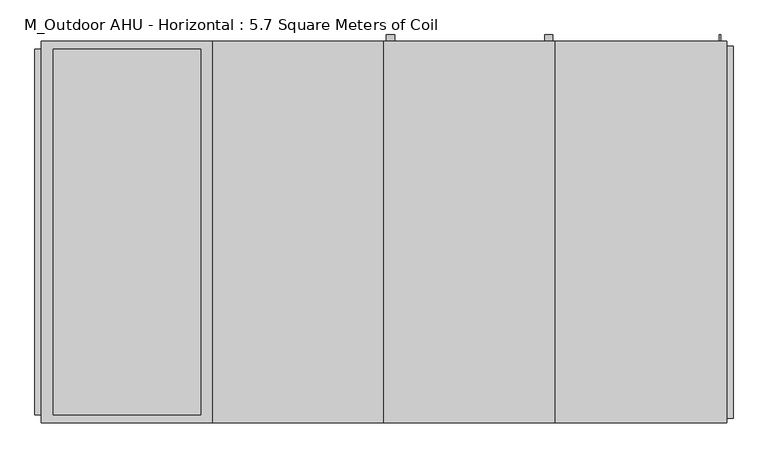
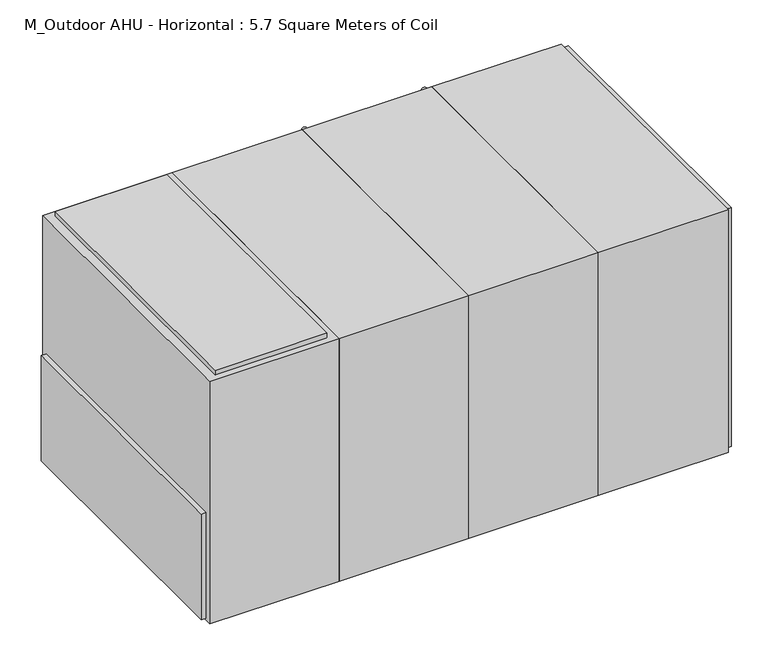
"""IFC4 building model written with IfcOpenShell, lengths in millimetres: proxy geometry, M_Outdoor AHU - Horizontal : 5.7 Square Meters of Coil."""

from ifc_helpers import new_model, si_unit, point, frame, frame_2d, origin, origin_with_axes, place, context, project, spatial, polyline, circle_curve, trimmed, segment, composite_curve, outline, extrude, source, transform, mapped, element, save


def m_outdoor_ahu_horizontal_5_7_square_meters_of_coil_4655b0e3(model_context):
    return source(origin(), model_context, "Body", "SweptSolid", [
        extrude(outline(composite_curve([segment(trimmed(circle_curve(frame_2d((50.8, 3949.7)), 15.0), [point((50.8, 3934.7))], [point((50.8, 3964.7))], False, "CARTESIAN"), True, "CONTINUOUS"), segment(trimmed(circle_curve(frame_2d((50.8, 3949.7)), 15.0), [point((50.8, 3964.7))], [point((50.8, 3934.7))], False, "CARTESIAN"), True, "CONTINUOUS")], self_intersect=False)), frame((0.0, 1485.9, 0.0), z_axis=(0.0, 1.0, 0.0), x_axis=(0.0, 0.0, 1.0)), (0.0, 0.0, 1.0), 50.8),
        extrude(outline(composite_curve([segment(trimmed(circle_curve(frame_2d((254.0, 5283.2)), 6.35), [point((254.0, 5276.85))], [point((254.0, 5289.55))], False, "CARTESIAN"), True, "CONTINUOUS"), segment(trimmed(circle_curve(frame_2d((254.0, 5283.2)), 6.35), [point((254.0, 5289.55))], [point((254.0, 5276.85))], False, "CARTESIAN"), True, "CONTINUOUS")], self_intersect=False)), frame((0.0, 1485.9, 0.0), z_axis=(0.0, 1.0, 0.0), x_axis=(0.0, 0.0, 1.0)), (0.0, 0.0, 1.0), 50.8),
        extrude(outline(composite_curve([segment(trimmed(circle_curve(frame_2d((254.0, 3949.7)), 32.5), [point((254.0, 3917.2))], [point((254.0, 3982.2))], False, "CARTESIAN"), True, "CONTINUOUS"), segment(trimmed(circle_curve(frame_2d((254.0, 3949.7)), 32.5), [point((254.0, 3982.2))], [point((254.0, 3917.2))], False, "CARTESIAN"), True, "CONTINUOUS")], self_intersect=False)), frame((0.0, 1485.9, 0.0), z_axis=(0.0, 1.0, 0.0), x_axis=(0.0, 0.0, 1.0)), (0.0, 0.0, 1.0), 50.8),
        extrude(outline(composite_curve([segment(trimmed(circle_curve(frame_2d((254.0, 2717.8)), 32.0), [point((254.0, 2685.8))], [point((254.0, 2749.8))], False, "CARTESIAN"), True, "CONTINUOUS"), segment(trimmed(circle_curve(frame_2d((254.0, 2717.8)), 32.0), [point((254.0, 2749.8))], [point((254.0, 2685.8))], False, "CARTESIAN"), True, "CONTINUOUS")], self_intersect=False)), frame((0.0, 1485.9, 0.0), z_axis=(0.0, 1.0, 0.0), x_axis=(0.0, 0.0, 1.0)), (0.0, 0.0, 1.0), 50.8),
        extrude(outline(composite_curve([segment(trimmed(circle_curve(frame_2d((2590.8, 2717.8)), 32.0), [point((2590.8, 2685.8))], [point((2590.8, 2749.8))], False, "CARTESIAN"), True, "CONTINUOUS"), segment(trimmed(circle_curve(frame_2d((2590.8, 2717.8)), 32.0), [point((2590.8, 2749.8))], [point((2590.8, 2685.8))], False, "CARTESIAN"), True, "CONTINUOUS")], self_intersect=False)), frame((0.0, 1485.9, 0.0), z_axis=(0.0, 1.0, 0.0), x_axis=(0.0, 0.0, 1.0)), (0.0, 0.0, 1.0), 50.8),
        extrude(outline(composite_curve([segment(trimmed(circle_curve(frame_2d((2590.8, 3949.7)), 32.5), [point((2590.8, 3917.2))], [point((2590.8, 3982.2))], False, "CARTESIAN"), True, "CONTINUOUS"), segment(trimmed(circle_curve(frame_2d((2590.8, 3949.7)), 32.5), [point((2590.8, 3982.2))], [point((2590.8, 3917.2))], False, "CARTESIAN"), True, "CONTINUOUS")], self_intersect=False)), frame((0.0, 1485.9, 0.0), z_axis=(0.0, 1.0, 0.0), x_axis=(0.0, 0.0, 1.0)), (0.0, 0.0, 1.0), 50.8),
        extrude(outline(polyline([(5384.8, 1450.0), (5384.8, -1450.0), (5334.0, -1450.0), (5334.0, 1450.0), (5384.8, 1450.0)])), frame((0.0, 0.0, 25.4), z_axis=(0.0, 0.0, 1.0), x_axis=(1.0, 0.0, 0.0)), (0.0, 0.0, 1.0), 2600.0),
        extrude(outline(polyline([(0.0, 1425.0), (0.0, -1425.0), (-50.8, -1425.0), (-50.8, 1425.0), (0.0, 1425.0)])), frame((0.0, 0.0, 25.4), z_axis=(0.0, 0.0, 1.0), x_axis=(1.0, 0.0, 0.0)), (0.0, 0.0, 1.0), 1150.0),
        extrude(outline(polyline([(1241.75, 1425.0), (1241.75, -1425.0), (91.75, -1425.0), (91.75, 1425.0), (1241.75, 1425.0)])), frame((0.0, 0.0, 2641.6), z_axis=(0.0, 0.0, 1.0), x_axis=(1.0, 0.0, 0.0)), (0.0, 0.0, 1.0), 50.8),
        extrude(outline(polyline([(5334.0, 1485.9), (5334.0, -1485.9), (4000.5, -1485.9), (4000.5, 1485.9), (5334.0, 1485.9)])), origin_with_axes(), (0.0, 0.0, 1.0), 2641.6),
        extrude(outline(polyline([(4000.5, 1485.9), (4000.5, -1485.9), (2667.0, -1485.9), (2667.0, 1485.9), (4000.5, 1485.9)])), origin_with_axes(), (0.0, 0.0, 1.0), 2641.6),
        extrude(outline(polyline([(2667.0, 1485.9), (2667.0, -1485.9), (1333.5, -1485.9), (1333.5, 1485.9), (2667.0, 1485.9)])), origin_with_axes(), (0.0, 0.0, 1.0), 2641.6),
        extrude(outline(polyline([(1333.5, 1485.9), (1333.5, -1485.9), (0.0, -1485.9), (0.0, 1485.9), (1333.5, 1485.9)])), origin_with_axes(), (0.0, 0.0, 1.0), 2641.6),
    ])


if __name__ == "__main__":
    model = new_model("IFC4")
    model_context = context("Model", 3, world=origin())
    ifc_project = project(units=[si_unit("LENGTHUNIT", "METRE", prefix="MILLI")], contexts=[model_context])
    site = spatial("IfcSite", under=ifc_project)
    building = spatial("IfcBuilding", under=site)
    placement = place(None, origin())
    m_outdoor_ahu_horizontal_5_7_square_meters_of_coil_shape = m_outdoor_ahu_horizontal_5_7_square_meters_of_coil_4655b0e3(model_context)
    element("IfcBuildingElementProxy", 1, Name="M_Outdoor AHU - Horizontal : 5.7 Square Meters of Coil", ObjectType="M_Outdoor AHU - Horizontal : 5.7 Square Meters of Coil", at=placement, inside=building, context=model_context, shape_type="MappedRepresentation", body=[
        mapped(m_outdoor_ahu_horizontal_5_7_square_meters_of_coil_shape, transform((0.0, 0.0, 0.0), x_axis=(1.0, 0.0, 0.0), y_axis=(0.0, 1.0, 0.0), z_axis=(0.0, 0.0, 1.0))),
    ])
    save(model, "model.ifc")
